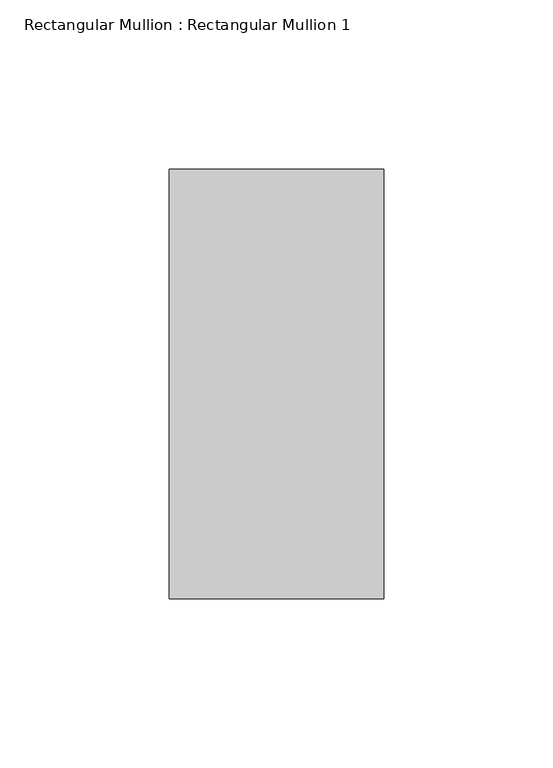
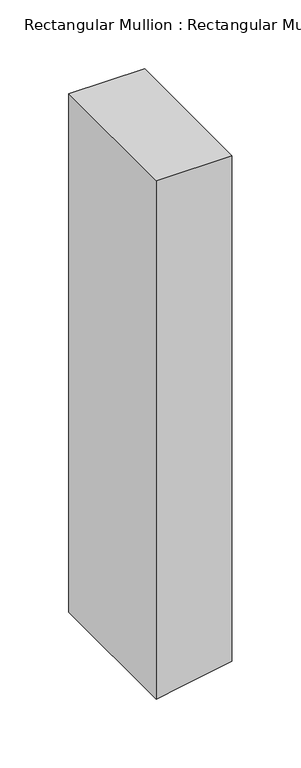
"""IFC4 building model written with IfcOpenShell, lengths in millimetres: member geometry, Rectangular Mullion : Rectangular Mullion 1."""

import ifcopenshell
import ifcopenshell.guid

model = None  # the IFC model being written
_history = None  # IfcOwnerHistory: only IFC2X3 demands one
_inside = {}  # id of a spatial element -> (the spatial element, [elements in it])
_under = {}  # id of a project, library or spatial element -> (it, [spatial elements below it])
_declared = {}  # id of a project -> (the project, [libraries it declares])
_typed = {}  # id of a type object -> (the type object, [elements of that type])
_made_of = {}  # id of a material, layer set ... -> (it, [elements and type objects made of it])


def new_model(schema):
    """Start an empty IFC model of exactly this schema.

    Asked for "IFC4X3", IfcOpenShell would pick the latest addendum, in which some entities
    have other attributes; the version numbers below select the first issue.
    IFC2X3 requires an IfcOwnerHistory on every rooted entity: one is made here for all.
    """
    global model, _history
    if schema == "IFC4X3":
        model = ifcopenshell.file(schema_version=(4, 3, 0, 0))
    else:
        model = ifcopenshell.file(schema=schema)
    _inside.clear()
    _under.clear()
    _declared.clear()
    _typed.clear()
    _made_of.clear()
    _history = None
    if model.schema == "IFC2X3":
        org = make("IfcOrganization", Name="unknown")
        user = make(
            "IfcPersonAndOrganization",
            ThePerson=make("IfcPerson", FamilyName="unknown"),
            TheOrganization=org,
        )
        app = make(
            "IfcApplication",
            ApplicationDeveloper=org,
            Version="unknown",
            ApplicationFullName="unknown",
            ApplicationIdentifier="unknown",
        )
        _history = make(
            "IfcOwnerHistory",
            OwningUser=user,
            OwningApplication=app,
            ChangeAction="ADDED",
            CreationDate=0,
        )
    return model


def make(cls, **values):
    """One entity of the class cls with the attributes given. An attribute that is None is left unset."""
    return model.create_entity(
        cls, **{name: value for name, value in values.items() if value is not None}
    )


def rooted(cls, **values):
    """An entity with a GlobalId (a new one), such as an element, a storey or a relation."""
    return make(cls, GlobalId=ifcopenshell.guid.new(), OwnerHistory=_history, **values)


def si_unit(unit_type, name, prefix=None):
    """IfcSIUnit, for example si_unit("LENGTHUNIT", "METRE", prefix="MILLI")."""
    return make("IfcSIUnit", UnitType=unit_type, Prefix=prefix, Name=name)


def assignment(units):
    """IfcUnitAssignment: the units of a project."""
    return None if units is None else make("IfcUnitAssignment", Units=units)


def point(xyz):
    """IfcCartesianPoint."""
    return None if xyz is None else make("IfcCartesianPoint", Coordinates=xyz)


def direction(xyz):
    """IfcDirection."""
    return None if xyz is None else make("IfcDirection", DirectionRatios=xyz)


def frame(location, z_axis=None, x_axis=None):
    """IfcAxis2Placement3D, a coordinate frame: its origin and axes. An axis left out is left unset."""
    return make(
        "IfcAxis2Placement3D",
        Location=point(location),
        Axis=direction(z_axis),
        RefDirection=direction(x_axis),
    )


def origin():
    """The frame at (0, 0, 0) with its axes left unset."""
    return frame((0.0, 0.0, 0.0))


def place(relative_to, where):
    """IfcLocalPlacement: puts the frame where relative to a parent placement (None: the world)."""
    return make(
        "IfcLocalPlacement", PlacementRelTo=relative_to, RelativePlacement=where
    )


def context(
    kind, dimensions, precision=None, world=None, true_north=None, identifier=None
):
    """IfcGeometricRepresentationContext, for example the 3D "Model" context."""
    return make(
        "IfcGeometricRepresentationContext",
        ContextIdentifier=identifier,
        ContextType=kind,
        CoordinateSpaceDimension=dimensions,
        Precision=precision,
        WorldCoordinateSystem=world,
        TrueNorth=true_north,
    )


def project(units=None, contexts=None):
    """IfcProject with its units and contexts."""
    return rooted(
        "IfcProject",
        Name="project",
        RepresentationContexts=contexts,
        UnitsInContext=assignment(units),
    )


def spatial(cls, under=None, at=None, **own):
    """A site, building, storey or space (cls), placed at a placement, below another one or the project."""
    s = rooted(cls, ObjectPlacement=at, **own)
    if under is not None:
        _under.setdefault(under.id(), (under, []))[1].append(s)
    return s


def polyline(points):
    """IfcPolyline through the points."""
    return make("IfcPolyline", Points=[point(p) for p in points])


def outline(outer, holes=None, kind="AREA"):
    """IfcArbitraryClosedProfileDef: a profile drawn as a closed curve; with holes, ...WithVoids."""
    if holes is None:
        return make("IfcArbitraryClosedProfileDef", ProfileType=kind, OuterCurve=outer)
    return make(
        "IfcArbitraryProfileDefWithVoids",
        ProfileType=kind,
        OuterCurve=outer,
        InnerCurves=holes,
    )


def extrude(swept, where, along, depth):
    """IfcExtrudedAreaSolid: the profile swept, set in the frame where, extruded along a direction by depth."""
    return make(
        "IfcExtrudedAreaSolid",
        SweptArea=swept,
        Position=where,
        ExtrudedDirection=direction(along),
        Depth=depth,
    )


def shape(context_of_items, identifier, shape_type, items):
    """IfcShapeRepresentation: the items that make up one representation, for example the "Body"."""
    return make(
        "IfcShapeRepresentation",
        ContextOfItems=context_of_items,
        RepresentationIdentifier=identifier,
        RepresentationType=shape_type,
        Items=items,
    )


def source(mapping_origin, context_of_items, identifier, shape_type, items):
    """IfcRepresentationMap: a shape defined once, which mapped items show again and again."""
    return make(
        "IfcRepresentationMap",
        MappingOrigin=mapping_origin,
        MappedRepresentation=shape(context_of_items, identifier, shape_type, items),
    )


def transform(
    local_origin,
    x_axis=None,
    y_axis=None,
    z_axis=None,
    scale=None,
    scale2=None,
    scale3=None,
    uniform=True,
):
    """IfcCartesianTransformationOperator3D, or its non-uniform kind. x_axis, y_axis, z_axis: its Axis1, 2, 3."""
    if uniform:
        return make(
            "IfcCartesianTransformationOperator3D",
            Axis1=direction(x_axis),
            Axis2=direction(y_axis),
            LocalOrigin=point(local_origin),
            Scale=scale,
            Axis3=direction(z_axis),
        )
    return make(
        "IfcCartesianTransformationOperator3DnonUniform",
        Axis1=direction(x_axis),
        Axis2=direction(y_axis),
        LocalOrigin=point(local_origin),
        Scale=scale,
        Axis3=direction(z_axis),
        Scale2=scale2,
        Scale3=scale3,
    )


def mapped(mapping_source, mapping_target):
    """IfcMappedItem: shows the shape of a source again, moved by a transform."""
    return make(
        "IfcMappedItem", MappingSource=mapping_source, MappingTarget=mapping_target
    )


def made_of(thing, what):
    """Note that an element or type object is made of a material, layer set ...; save() writes the relation."""
    if what is not None:
        _made_of.setdefault(what.id(), (what, []))[1].append(thing)
    return thing


def element(
    cls,
    number,
    at=None,
    inside=None,
    cuts=None,
    type_object=None,
    material=None,
    context=None,
    identifier="Body",
    shape_type=None,
    held_by="IfcProductDefinitionShape",
    body=None,
    shapes=None,
    **own,
):
    """One element of the class cls, such as IfcWall. Its Tag is "e" and its number.

    at: its placement. inside: the storey or other place that contains it. cuts: it is an
    opening in that element (IfcRelVoidsElement). A single representation is given by context,
    identifier, shape_type and body (its items); several are given by shapes. held_by: the class
    of the entity that holds the representations. save() writes the other relations.
    """
    e = rooted(cls, Tag="e%d" % number, ObjectPlacement=at, **own)
    if body is not None:
        shapes = [shape(context, identifier, shape_type, body)]
    if shapes is not None:
        e.Representation = make(held_by, Representations=shapes)
    if inside is not None:
        _inside.setdefault(inside.id(), (inside, []))[1].append(e)
    if cuts is not None:
        rooted(
            "IfcRelVoidsElement", RelatingBuildingElement=cuts, RelatedOpeningElement=e
        )
    if type_object is not None:
        _typed.setdefault(type_object.id(), (type_object, []))[1].append(e)
    return made_of(e, material)


def aggregate(whole, parts):
    """IfcRelAggregates: a whole, such as a stair, and the parts it consists of."""
    return rooted("IfcRelAggregates", RelatingObject=whole, RelatedObjects=parts)


def save(model, path):
    """Write the relations noted so far, then the file.

    IfcRelAggregates (storeys below a building ...), IfcRelContainedInSpatialStructure (elements
    in a storey), IfcRelDefinesByType, IfcRelAssociatesMaterial and IfcRelDeclares: one each for
    every whole, place, type object, material and project.
    """
    for whole, parts in _under.values():
        aggregate(whole, parts)
    for where, things in _inside.values():
        rooted(
            "IfcRelContainedInSpatialStructure",
            RelatedElements=things,
            RelatingStructure=where,
        )
    for kind, things in _typed.values():
        rooted("IfcRelDefinesByType", RelatedObjects=things, RelatingType=kind)
    for what, things in _made_of.values():
        rooted("IfcRelAssociatesMaterial", RelatedObjects=things, RelatingMaterial=what)
    for by, libraries in _declared.values():
        rooted("IfcRelDeclares", RelatingContext=by, RelatedDefinitions=libraries)
    model.write(path)


def rectangular_mullion_rectangular_mullion_1_70f61997(model_context):
    return source(origin(), model_context, "Body", "SweptSolid", [
        extrude(outline(polyline([(0.0, 31.75), (0.0, -31.75), (-459.7155441, -31.75), (-456.06146, -11.0266593), (-448.5187809, 31.75), (0.0, 31.75)])), frame((0.0, -63.5, 0.0), z_axis=(0.0, 1.0, 0.0), x_axis=(0.0, 0.0, 1.0)), (0.0, 0.0, 1.0), 127.0),
    ])


if __name__ == "__main__":
    model = new_model("IFC4")
    model_context = context("Model", 3, world=origin())
    ifc_project = project(units=[si_unit("LENGTHUNIT", "METRE", prefix="MILLI")], contexts=[model_context])
    site = spatial("IfcSite", under=ifc_project)
    building = spatial("IfcBuilding", under=site)
    placement = place(None, origin())
    rectangular_mullion_rectangular_mullion_1_shape = rectangular_mullion_rectangular_mullion_1_70f61997(model_context)
    element("IfcMember", 1, ObjectType="Rectangular Mullion : Rectangular Mullion 1", at=placement, inside=building, context=model_context, shape_type="MappedRepresentation", body=[
        mapped(rectangular_mullion_rectangular_mullion_1_shape, transform((0.0, 0.0, 0.0), x_axis=(1.0, 0.0, 0.0), y_axis=(0.0, 1.0, 0.0), z_axis=(0.0, 0.0, 1.0))),
    ])
    save(model, "model.ifc")
